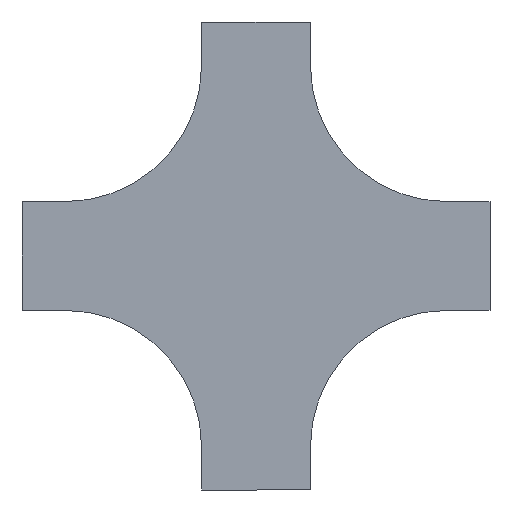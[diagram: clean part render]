
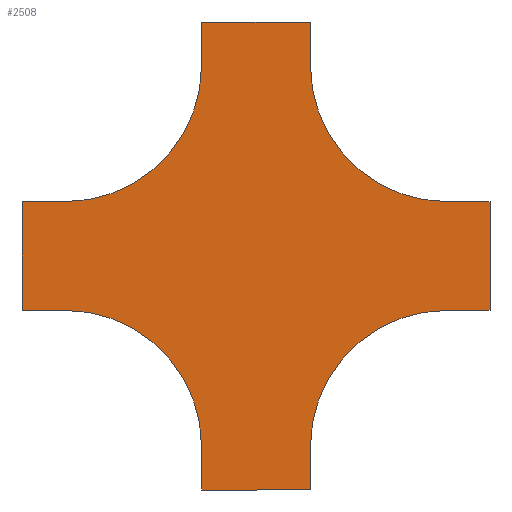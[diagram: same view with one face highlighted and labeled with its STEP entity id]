
A CAD part, front view. The second image highlights one B-rep face of the part: STEP entity #2508.
In plain terms, the highlighted planar face has unit normal (0, -1, 0).
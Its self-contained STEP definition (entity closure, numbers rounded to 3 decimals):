
#16 = VECTOR ( 'NONE', #3282, 1000. ) ;
#30 = DIRECTION ( 'NONE',  ( 0., 0., -1. ) ) ;
#78 = CARTESIAN_POINT ( 'NONE',  ( -390., 0., -125. ) ) ;
#88 = CARTESIAN_POINT ( 'NONE',  ( 0., 0., -225. ) ) ;
#98 = CIRCLE ( 'NONE', #2809, 125. ) ;
#106 = LINE ( 'NONE', #2137, #3300 ) ;
#117 = DIRECTION ( 'NONE',  ( -1., 0., 0. ) ) ;
#125 = CARTESIAN_POINT ( 'NONE',  ( 0., 0., 0. ) ) ;
#187 = CARTESIAN_POINT ( 'NONE',  ( -390., 0., -225. ) ) ;
#211 = CARTESIAN_POINT ( 'NONE',  ( -225., 0., 40. ) ) ;
#212 = EDGE_CURVE ( 'NONE', #255, #2778, #2395, .T. ) ;
#246 = CARTESIAN_POINT ( 'NONE',  ( -225., 0., 40. ) ) ;
#255 = VERTEX_POINT ( 'NONE', #2273 ) ;
#262 = CARTESIAN_POINT ( 'NONE',  ( 40., 0., -125. ) ) ;
#291 = ORIENTED_EDGE ( 'NONE', *, *, #1921, .F. ) ;
#292 = CARTESIAN_POINT ( 'NONE',  ( 0., 0., -125. ) ) ;
#340 = DIRECTION ( 'NONE',  ( 0., 0., -1. ) ) ;
#353 = EDGE_CURVE ( 'NONE', #2231, #2688, #1086, .T. ) ;
#354 = DIRECTION ( 'NONE',  ( 0., -1., 0. ) ) ;
#366 = VECTOR ( 'NONE', #1984, 1000. ) ;
#416 = AXIS2_PLACEMENT_3D ( 'NONE', #1365, #1861, #2871 ) ;
#472 = DIRECTION ( 'NONE',  ( 0., 0., 1. ) ) ;
#479 = ORIENTED_EDGE ( 'NONE', *, *, #2315, .F. ) ;
#562 = DIRECTION ( 'NONE',  ( 0., 0., -1. ) ) ;
#564 = DIRECTION ( 'NONE',  ( 0., -1., 0. ) ) ;
#606 = CARTESIAN_POINT ( 'NONE',  ( -125., 0., -350. ) ) ;
#628 = CARTESIAN_POINT ( 'NONE',  ( 40., 0., -125. ) ) ;
#636 = VERTEX_POINT ( 'NONE', #3072 ) ;
#640 = EDGE_CURVE ( 'NONE', #1563, #2980, #772, .T. ) ;
#647 = VECTOR ( 'NONE', #3295, 1000. ) ;
#761 = EDGE_CURVE ( 'NONE', #1188, #897, #106, .T. ) ;
#766 = EDGE_CURVE ( 'NONE', #2980, #1901, #3088, .T. ) ;
#767 = ORIENTED_EDGE ( 'NONE', *, *, #766, .F. ) ;
#772 = LINE ( 'NONE', #2023, #2492 ) ;
#805 = EDGE_CURVE ( 'NONE', #2688, #1293, #3169, .T. ) ;
#825 = VERTEX_POINT ( 'NONE', #78 ) ;
#838 = CARTESIAN_POINT ( 'NONE',  ( -225., 0., 40. ) ) ;
#850 = VECTOR ( 'NONE', #30, 1000. ) ;
#851 = VECTOR ( 'NONE', #1594, 1000. ) ;
#852 = ORIENTED_EDGE ( 'NONE', *, *, #1497, .F. ) ;
#879 = DIRECTION ( 'NONE',  ( 0., -1., 0. ) ) ;
#897 = VERTEX_POINT ( 'NONE', #2430 ) ;
#937 = VERTEX_POINT ( 'NONE', #1686 ) ;
#956 = AXIS2_PLACEMENT_3D ( 'NONE', #1829, #564, #2784 ) ;
#1030 = DIRECTION ( 'NONE',  ( 1., 0., 0. ) ) ;
#1086 = LINE ( 'NONE', #262, #850 ) ;
#1166 = CARTESIAN_POINT ( 'NONE',  ( 0., 0., -125. ) ) ;
#1188 = VERTEX_POINT ( 'NONE', #606 ) ;
#1197 = VERTEX_POINT ( 'NONE', #838 ) ;
#1236 = CIRCLE ( 'NONE', #3100, 125. ) ;
#1242 = CIRCLE ( 'NONE', #956, 125. ) ;
#1248 = LINE ( 'NONE', #211, #647 ) ;
#1263 = LINE ( 'NONE', #1798, #3254 ) ;
#1293 = VERTEX_POINT ( 'NONE', #2226 ) ;
#1365 = CARTESIAN_POINT ( 'NONE',  ( 0., 0., 0. ) ) ;
#1369 = CARTESIAN_POINT ( 'NONE',  ( -125., 0., 40. ) ) ;
#1477 = CARTESIAN_POINT ( 'NONE',  ( -350., 0., -125. ) ) ;
#1482 = DIRECTION ( 'NONE',  ( 1., 0., 0. ) ) ;
#1489 = CARTESIAN_POINT ( 'NONE',  ( -390., 0., -125. ) ) ;
#1497 = EDGE_CURVE ( 'NONE', #2128, #1197, #1515, .T. ) ;
#1515 = LINE ( 'NONE', #246, #16 ) ;
#1527 = DIRECTION ( 'NONE',  ( 0., 0., 1. ) ) ;
#1563 = VERTEX_POINT ( 'NONE', #1369 ) ;
#1594 = DIRECTION ( 'NONE',  ( -1., 0., 0. ) ) ;
#1602 = AXIS2_PLACEMENT_3D ( 'NONE', #125, #354, #340 ) ;
#1641 = CARTESIAN_POINT ( 'NONE',  ( -350., 0., -125. ) ) ;
#1653 = CARTESIAN_POINT ( 'NONE',  ( -350., 0., -225. ) ) ;
#1685 = ORIENTED_EDGE ( 'NONE', *, *, #212, .F. ) ;
#1686 = CARTESIAN_POINT ( 'NONE',  ( -225., 0., -390. ) ) ;
#1693 = VECTOR ( 'NONE', #472, 1000. ) ;
#1728 = DIRECTION ( 'NONE',  ( 0., 0., 1. ) ) ;
#1731 = ORIENTED_EDGE ( 'NONE', *, *, #2332, .F. ) ;
#1776 = LINE ( 'NONE', #1489, #1693 ) ;
#1798 = CARTESIAN_POINT ( 'NONE',  ( -225., 0., -390. ) ) ;
#1823 = ORIENTED_EDGE ( 'NONE', *, *, #2910, .F. ) ;
#1829 = CARTESIAN_POINT ( 'NONE',  ( -350., 0., 0. ) ) ;
#1835 = EDGE_LOOP ( 'NONE', ( #2607, #852, #291, #479, #2905, #1685, #1823, #2738, #2250, #3286, #1731, #3137, #2455, #2769, #767, #2406 ) ) ;
#1861 = DIRECTION ( 'NONE',  ( 0., -1., 0. ) ) ;
#1898 = DIRECTION ( 'NONE',  ( 0., 0., -1. ) ) ;
#1901 = VERTEX_POINT ( 'NONE', #292 ) ;
#1921 = EDGE_CURVE ( 'NONE', #1972, #2128, #1242, .T. ) ;
#1945 = LINE ( 'NONE', #1166, #2073 ) ;
#1972 = VERTEX_POINT ( 'NONE', #1641 ) ;
#1984 = DIRECTION ( 'NONE',  ( -1., 0., 0. ) ) ;
#2023 = CARTESIAN_POINT ( 'NONE',  ( -125., 0., 40. ) ) ;
#2073 = VECTOR ( 'NONE', #1482, 1000. ) ;
#2111 = FACE_OUTER_BOUND ( 'NONE', #1835, .T. ) ;
#2128 = VERTEX_POINT ( 'NONE', #3200 ) ;
#2137 = CARTESIAN_POINT ( 'NONE',  ( -125., 0., -390. ) ) ;
#2225 = CARTESIAN_POINT ( 'NONE',  ( -125., 0., 0. ) ) ;
#2226 = CARTESIAN_POINT ( 'NONE',  ( 0., 0., -225. ) ) ;
#2231 = VERTEX_POINT ( 'NONE', #628 ) ;
#2250 = ORIENTED_EDGE ( 'NONE', *, *, #3000, .F. ) ;
#2273 = CARTESIAN_POINT ( 'NONE',  ( -350., 0., -225. ) ) ;
#2290 = CARTESIAN_POINT ( 'NONE',  ( 0., 0., -350. ) ) ;
#2315 = EDGE_CURVE ( 'NONE', #825, #1972, #3058, .T. ) ;
#2332 = EDGE_CURVE ( 'NONE', #1293, #1188, #1236, .T. ) ;
#2338 = EDGE_CURVE ( 'NONE', #937, #636, #1263, .T. ) ;
#2347 = PLANE ( 'NONE',  #416 ) ;
#2356 = EDGE_CURVE ( 'NONE', #1197, #1563, #1248, .T. ) ;
#2395 = LINE ( 'NONE', #1653, #2808 ) ;
#2406 = ORIENTED_EDGE ( 'NONE', *, *, #640, .F. ) ;
#2430 = CARTESIAN_POINT ( 'NONE',  ( -125., 0., -390. ) ) ;
#2455 = ORIENTED_EDGE ( 'NONE', *, *, #353, .F. ) ;
#2460 = CARTESIAN_POINT ( 'NONE',  ( -225., 0., -390. ) ) ;
#2492 = VECTOR ( 'NONE', #562, 1000. ) ;
#2508 = ADVANCED_FACE ( 'NONE', ( #2111 ), #2347, .T. ) ;
#2531 = CARTESIAN_POINT ( 'NONE',  ( 40., 0., -225. ) ) ;
#2607 = ORIENTED_EDGE ( 'NONE', *, *, #2356, .F. ) ;
#2688 = VERTEX_POINT ( 'NONE', #2531 ) ;
#2738 = ORIENTED_EDGE ( 'NONE', *, *, #2338, .F. ) ;
#2751 = EDGE_CURVE ( 'NONE', #2778, #825, #1776, .T. ) ;
#2769 = ORIENTED_EDGE ( 'NONE', *, *, #2997, .F. ) ;
#2778 = VERTEX_POINT ( 'NONE', #187 ) ;
#2784 = DIRECTION ( 'NONE',  ( 0., 0., 1. ) ) ;
#2808 = VECTOR ( 'NONE', #117, 1000. ) ;
#2809 = AXIS2_PLACEMENT_3D ( 'NONE', #3111, #879, #1898 ) ;
#2828 = VECTOR ( 'NONE', #1030, 1000. ) ;
#2869 = DIRECTION ( 'NONE',  ( 0., 0., -1. ) ) ;
#2871 = DIRECTION ( 'NONE',  ( 0., 0., -1. ) ) ;
#2905 = ORIENTED_EDGE ( 'NONE', *, *, #2751, .F. ) ;
#2910 = EDGE_CURVE ( 'NONE', #636, #255, #98, .T. ) ;
#2980 = VERTEX_POINT ( 'NONE', #2225 ) ;
#2989 = DIRECTION ( 'NONE',  ( 0., -1., 0. ) ) ;
#2992 = LINE ( 'NONE', #2460, #366 ) ;
#2997 = EDGE_CURVE ( 'NONE', #1901, #2231, #1945, .T. ) ;
#3000 = EDGE_CURVE ( 'NONE', #897, #937, #2992, .T. ) ;
#3058 = LINE ( 'NONE', #1477, #2828 ) ;
#3072 = CARTESIAN_POINT ( 'NONE',  ( -225., 0., -350. ) ) ;
#3088 = CIRCLE ( 'NONE', #1602, 125. ) ;
#3100 = AXIS2_PLACEMENT_3D ( 'NONE', #2290, #2989, #1527 ) ;
#3111 = CARTESIAN_POINT ( 'NONE',  ( -350., 0., -350. ) ) ;
#3137 = ORIENTED_EDGE ( 'NONE', *, *, #805, .F. ) ;
#3169 = LINE ( 'NONE', #88, #851 ) ;
#3200 = CARTESIAN_POINT ( 'NONE',  ( -225., 0., 0. ) ) ;
#3254 = VECTOR ( 'NONE', #1728, 1000. ) ;
#3282 = DIRECTION ( 'NONE',  ( 0., 0., 1. ) ) ;
#3286 = ORIENTED_EDGE ( 'NONE', *, *, #761, .F. ) ;
#3295 = DIRECTION ( 'NONE',  ( 1., 0., 0. ) ) ;
#3300 = VECTOR ( 'NONE', #2869, 1000. ) ;
